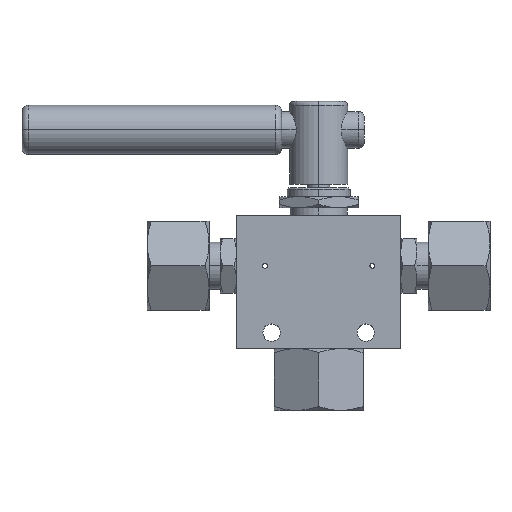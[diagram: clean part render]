
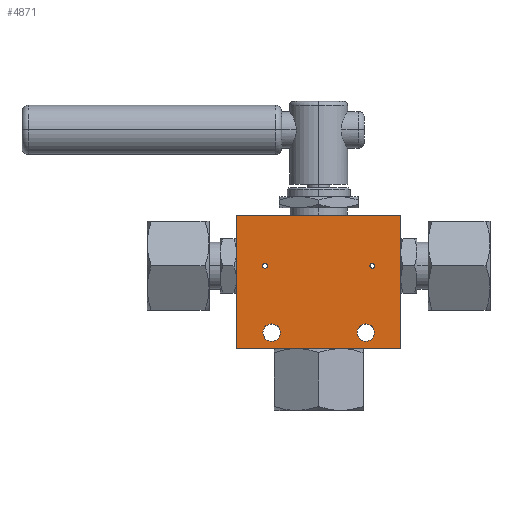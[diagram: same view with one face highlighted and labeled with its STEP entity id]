
A CAD part, top view. The second image highlights one B-rep face of the part: STEP entity #4871.
In plain terms, the highlighted planar face has unit normal (0, 0, 1).
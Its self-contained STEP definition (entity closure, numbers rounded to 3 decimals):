
#1 = EDGE_CURVE ( 'NONE', #1080, #758, #2666, .T. ) ;
#165 = VECTOR ( 'NONE', #2234, 1000. ) ;
#205 = LINE ( 'NONE', #6233, #5237 ) ;
#222 = DIRECTION ( 'NONE',  ( 1., 0., 0. ) ) ;
#257 = CARTESIAN_POINT ( 'NONE',  ( 19.05, -20.5, 19. ) ) ;
#295 = DIRECTION ( 'NONE',  ( 0., 0., 1. ) ) ;
#329 = AXIS2_PLACEMENT_3D ( 'NONE', #814, #846, #1759 ) ;
#473 = CARTESIAN_POINT ( 'NONE',  ( 15.55, -20.5, 19. ) ) ;
#503 = EDGE_CURVE ( 'NONE', #6170, #506, #205, .T. ) ;
#506 = VERTEX_POINT ( 'NONE', #3778 ) ;
#543 = ORIENTED_EDGE ( 'NONE', *, *, #1228, .F. ) ;
#699 = LINE ( 'NONE', #5200, #3035 ) ;
#758 = VERTEX_POINT ( 'NONE', #5660 ) ;
#791 = CARTESIAN_POINT ( 'NONE',  ( -22.55, -20.5, 19. ) ) ;
#802 = CIRCLE ( 'NONE', #5413, 3.5 ) ;
#810 = DIRECTION ( 'NONE',  ( 0., 0., 1. ) ) ;
#814 = CARTESIAN_POINT ( 'NONE',  ( -21.75, 6.5, 19. ) ) ;
#821 = ORIENTED_EDGE ( 'NONE', *, *, #503, .T. ) ;
#825 = EDGE_CURVE ( 'NONE', #1388, #3253, #4999, .T. ) ;
#829 = EDGE_CURVE ( 'NONE', #1967, #4130, #2741, .T. ) ;
#846 = DIRECTION ( 'NONE',  ( 0., 0., 1. ) ) ;
#1051 = VERTEX_POINT ( 'NONE', #1055 ) ;
#1055 = CARTESIAN_POINT ( 'NONE',  ( -22.75, 6.5, 19. ) ) ;
#1080 = VERTEX_POINT ( 'NONE', #791 ) ;
#1196 = EDGE_CURVE ( 'NONE', #6344, #1051, #3613, .T. ) ;
#1228 = EDGE_CURVE ( 'NONE', #2699, #5732, #802, .T. ) ;
#1246 = EDGE_CURVE ( 'NONE', #3253, #1388, #1551, .T. ) ;
#1249 = CARTESIAN_POINT ( 'NONE',  ( -33.25, 27., 19. ) ) ;
#1282 = CARTESIAN_POINT ( 'NONE',  ( -21.75, 6.5, 19. ) ) ;
#1357 = EDGE_CURVE ( 'NONE', #758, #1080, #5861, .T. ) ;
#1388 = VERTEX_POINT ( 'NONE', #3702 ) ;
#1393 = EDGE_LOOP ( 'NONE', ( #2047, #3417 ) ) ;
#1551 = CIRCLE ( 'NONE', #6193, 1. ) ;
#1584 = AXIS2_PLACEMENT_3D ( 'NONE', #1963, #4039, #2030 ) ;
#1759 = DIRECTION ( 'NONE',  ( 1., 0., 0. ) ) ;
#1892 = AXIS2_PLACEMENT_3D ( 'NONE', #5546, #3420, #6613 ) ;
#1963 = CARTESIAN_POINT ( 'NONE',  ( -19.05, -20.5, 19. ) ) ;
#1967 = VERTEX_POINT ( 'NONE', #6627 ) ;
#1993 = AXIS2_PLACEMENT_3D ( 'NONE', #1282, #810, #222 ) ;
#2021 = FACE_BOUND ( 'NONE', #1393, .T. ) ;
#2030 = DIRECTION ( 'NONE',  ( 1., 0., 0. ) ) ;
#2047 = ORIENTED_EDGE ( 'NONE', *, *, #1246, .F. ) ;
#2159 = EDGE_CURVE ( 'NONE', #506, #1967, #699, .T. ) ;
#2234 = DIRECTION ( 'NONE',  ( -1., 0., 0. ) ) ;
#2241 = DIRECTION ( 'NONE',  ( 0., 0., 1. ) ) ;
#2422 = AXIS2_PLACEMENT_3D ( 'NONE', #5795, #4762, #5320 ) ;
#2510 = LINE ( 'NONE', #3047, #5122 ) ;
#2554 = CARTESIAN_POINT ( 'NONE',  ( 19.05, -20.5, 19. ) ) ;
#2555 = CARTESIAN_POINT ( 'NONE',  ( 22.55, -20.5, 19. ) ) ;
#2666 = CIRCLE ( 'NONE', #1584, 3.5 ) ;
#2699 = VERTEX_POINT ( 'NONE', #2555 ) ;
#2707 = ORIENTED_EDGE ( 'NONE', *, *, #829, .T. ) ;
#2725 = DIRECTION ( 'NONE',  ( 0., 1., 0. ) ) ;
#2741 = LINE ( 'NONE', #1249, #165 ) ;
#2917 = ORIENTED_EDGE ( 'NONE', *, *, #1357, .F. ) ;
#2940 = ORIENTED_EDGE ( 'NONE', *, *, #3490, .T. ) ;
#3010 = CARTESIAN_POINT ( 'NONE',  ( -33.25, 27., 19. ) ) ;
#3035 = VECTOR ( 'NONE', #2725, 1000. ) ;
#3047 = CARTESIAN_POINT ( 'NONE',  ( -33.25, -27., 19. ) ) ;
#3253 = VERTEX_POINT ( 'NONE', #5182 ) ;
#3259 = CARTESIAN_POINT ( 'NONE',  ( -20.75, 6.5, 19. ) ) ;
#3336 = ORIENTED_EDGE ( 'NONE', *, *, #2159, .T. ) ;
#3417 = ORIENTED_EDGE ( 'NONE', *, *, #825, .F. ) ;
#3420 = DIRECTION ( 'NONE',  ( 0., 0., -1. ) ) ;
#3490 = EDGE_CURVE ( 'NONE', #4130, #6170, #2510, .T. ) ;
#3613 = CIRCLE ( 'NONE', #1993, 1. ) ;
#3698 = DIRECTION ( 'NONE',  ( 0., 0., 1. ) ) ;
#3702 = CARTESIAN_POINT ( 'NONE',  ( 22.75, 6.5, 19. ) ) ;
#3778 = CARTESIAN_POINT ( 'NONE',  ( 33.25, -27., 19. ) ) ;
#3839 = ORIENTED_EDGE ( 'NONE', *, *, #4433, .F. ) ;
#3866 = CARTESIAN_POINT ( 'NONE',  ( 21.75, 6.5, 19. ) ) ;
#4039 = DIRECTION ( 'NONE',  ( 0., 0., 1. ) ) ;
#4102 = AXIS2_PLACEMENT_3D ( 'NONE', #2554, #3698, #4608 ) ;
#4130 = VERTEX_POINT ( 'NONE', #3010 ) ;
#4158 = AXIS2_PLACEMENT_3D ( 'NONE', #4205, #2241, #5158 ) ;
#4205 = CARTESIAN_POINT ( 'NONE',  ( -19.05, -20.5, 19. ) ) ;
#4217 = EDGE_LOOP ( 'NONE', ( #5756, #543 ) ) ;
#4298 = DIRECTION ( 'NONE',  ( 0., 0., 1. ) ) ;
#4433 = EDGE_CURVE ( 'NONE', #1051, #6344, #5134, .T. ) ;
#4457 = FACE_BOUND ( 'NONE', #5049, .T. ) ;
#4458 = DIRECTION ( 'NONE',  ( 0., -1., 0. ) ) ;
#4478 = CARTESIAN_POINT ( 'NONE',  ( -33.25, -27., 19. ) ) ;
#4564 = FACE_OUTER_BOUND ( 'NONE', #5602, .T. ) ;
#4593 = PLANE ( 'NONE',  #1892 ) ;
#4608 = DIRECTION ( 'NONE',  ( 1., 0., 0. ) ) ;
#4762 = DIRECTION ( 'NONE',  ( 0., 0., 1. ) ) ;
#4871 = ADVANCED_FACE ( 'NONE', ( #4564, #5052, #2021, #4457, #6000 ), #4593, .F. ) ;
#4999 = CIRCLE ( 'NONE', #2422, 1. ) ;
#5049 = EDGE_LOOP ( 'NONE', ( #6244, #2917 ) ) ;
#5052 = FACE_BOUND ( 'NONE', #5430, .T. ) ;
#5122 = VECTOR ( 'NONE', #4458, 1000. ) ;
#5134 = CIRCLE ( 'NONE', #329, 1. ) ;
#5158 = DIRECTION ( 'NONE',  ( 1., 0., 0. ) ) ;
#5182 = CARTESIAN_POINT ( 'NONE',  ( 20.75, 6.5, 19. ) ) ;
#5200 = CARTESIAN_POINT ( 'NONE',  ( 33.25, -27., 19. ) ) ;
#5237 = VECTOR ( 'NONE', #6372, 1000. ) ;
#5320 = DIRECTION ( 'NONE',  ( 1., 0., 0. ) ) ;
#5353 = DIRECTION ( 'NONE',  ( 1., 0., 0. ) ) ;
#5383 = DIRECTION ( 'NONE',  ( 1., 0., 0. ) ) ;
#5413 = AXIS2_PLACEMENT_3D ( 'NONE', #257, #4298, #5353 ) ;
#5430 = EDGE_LOOP ( 'NONE', ( #3839, #5740 ) ) ;
#5546 = CARTESIAN_POINT ( 'NONE',  ( 0., 0., 19. ) ) ;
#5602 = EDGE_LOOP ( 'NONE', ( #3336, #2707, #2940, #821 ) ) ;
#5660 = CARTESIAN_POINT ( 'NONE',  ( -15.55, -20.5, 19. ) ) ;
#5732 = VERTEX_POINT ( 'NONE', #473 ) ;
#5740 = ORIENTED_EDGE ( 'NONE', *, *, #1196, .F. ) ;
#5756 = ORIENTED_EDGE ( 'NONE', *, *, #6316, .F. ) ;
#5795 = CARTESIAN_POINT ( 'NONE',  ( 21.75, 6.5, 19. ) ) ;
#5861 = CIRCLE ( 'NONE', #4158, 3.5 ) ;
#6000 = FACE_BOUND ( 'NONE', #4217, .T. ) ;
#6170 = VERTEX_POINT ( 'NONE', #4478 ) ;
#6193 = AXIS2_PLACEMENT_3D ( 'NONE', #3866, #295, #5383 ) ;
#6233 = CARTESIAN_POINT ( 'NONE',  ( -33.25, -27., 19. ) ) ;
#6240 = CIRCLE ( 'NONE', #4102, 3.5 ) ;
#6244 = ORIENTED_EDGE ( 'NONE', *, *, #1, .F. ) ;
#6316 = EDGE_CURVE ( 'NONE', #5732, #2699, #6240, .T. ) ;
#6344 = VERTEX_POINT ( 'NONE', #3259 ) ;
#6372 = DIRECTION ( 'NONE',  ( 1., 0., 0. ) ) ;
#6613 = DIRECTION ( 'NONE',  ( -1., 0., 0. ) ) ;
#6627 = CARTESIAN_POINT ( 'NONE',  ( 33.25, 27., 19. ) ) ;
